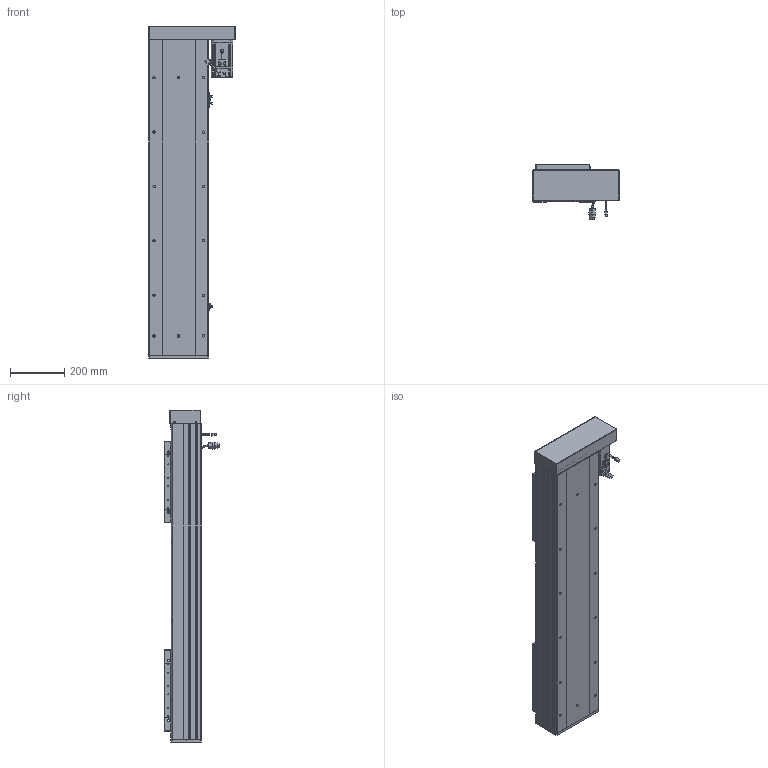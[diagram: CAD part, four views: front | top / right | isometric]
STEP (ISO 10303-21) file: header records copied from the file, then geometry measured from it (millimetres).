
FILE_DESCRIPTION (( 'STEP AP203' ), '1' );
FILE_NAME ('RY220F-L2525-300-RK.SLDASM_750.step', '2022-07-04T01:35:07', ( '' ), ( '' ), 'SwSTEP 2.0', 'SolidWorks 2016', '' );
FILE_SCHEMA (( 'CONFIG_CONTROL_DESIGN' ));
Length unit declared in the file: millimetre
Products named in the file (15): RY220F-詩湍揤踡輸; 覜茼ん672; RY220F-L2525-300-RK.SLDASM_750; 滅袉蝶18-24; 怢湛750W_ECMA-CX0807ES; RY220F-祥凄詩湍-蛌殏-300_750; RY220左右折电机安装板; RY220F-滅鳥奻裔; RY220F-蛌殏奻裔啣-300_750; RY220F-672覜茼んえ; RY220酘衵殏萇儂欶; 侐源滅袉蝶; RY220F蛌殏菁釱-300_750; RY220F綴裔啣; RY220F臏賑釱25-32佪裝
Assembly tree (24 placements, depth 2):
  RY220F-L2525-300-RK.SLDASM_750
    RY220F蛌殏菁釱-300_750
    RY220F-蛌殏奻裔啣-300_750  x2
    怢湛750W_ECMA-CX0807ES
    RY220F臏賑釱25-32佪裝  x2
    RY220F-滅鳥奻裔  x2
    滅袉蝶18-24  x3
    RY220F綴裔啣
    RY220F-祥凄詩湍-蛌殏-300_750
    RY220F-詩湍揤踡輸  x2
    覜茼ん672  x3
    RY220F-672覜茼んえ  x2
    RY220左右折电机安装板
    RY220酘衵殏萇儂欶
    侐源滅袉蝶  x2
Bounding box: 317.5 x 205.27 x 1221 mm (x, y, z)
Volume: 12802080.5 mm3; surface area: 3310404.6 mm2
Topology: 25 solids, 25 shells, 2692 faces, 7336 edges, 4560 vertices
Faces by surface type: cylinder 1206, plane 1044, cone 371, bspline 45, sphere 16, torus 10
Entity records: 66624 total; most frequent: CARTESIAN_POINT 18309, ORIENTED_EDGE 9790, DIRECTION 9436, EDGE_CURVE 4895, AXIS2_PLACEMENT_3D 3338, VERTEX_POINT 3176, LINE 2760, VECTOR 2760
